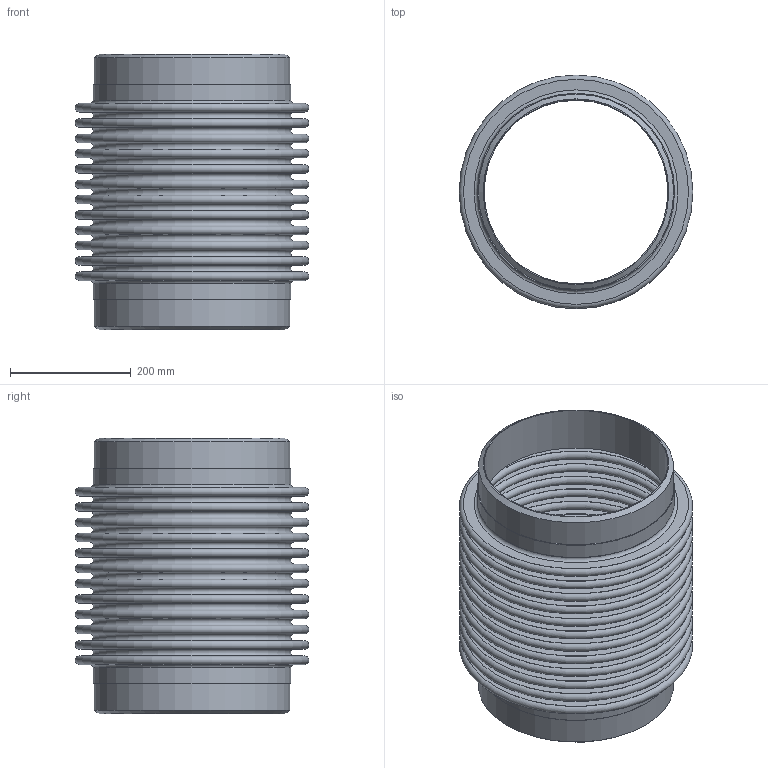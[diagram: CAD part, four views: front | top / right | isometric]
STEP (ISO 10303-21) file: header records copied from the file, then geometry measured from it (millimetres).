
FILE_DESCRIPTION(/* description */ ('EXPANSION JOINT,SINGLE, WELD ENDS,4 INCH NOMINAL'),/* implementation_level */ '2;1');
FILE_NAME(/* name */ 'ASSEMBLY US-12-12-150L.stp',/* time_stamp */ '2026-07-30T08:45:38-05:00',/* author */ ('jorgef'),/* organization */ (''),/* preprocessor_version */ 'ST-DEVELOPER v20.1',/* originating_system */ 'Autodesk Inventor 2026',/* authorisation */ '');
FILE_SCHEMA (('AUTOMOTIVE_DESIGN { 1 0 10303 214 3 1 1 }'));
Length unit declared in the file: inch
Products named in the file (3): ASSEMBLY  US-12-12-150L; STOCK BELLOW - US-12-12-150L; PIPE- US-12-12-150L
Assembly tree (3 placements, depth 2):
  ASSEMBLY  US-12-12-150L
    STOCK BELLOW - US-12-12-150L
    PIPE- US-12-12-150L  x2
Bounding box: 387.35 x 387.35 x 457.2 mm (x, y, z)
Volume: 2995459 mm3; surface area: 2453055.6 mm2
Topology: 5 solids, 5 shells, 118 faces, 180 edges, 121 vertices
Faces by surface type: plane 58, torus 50, cylinder 8, cone 2
Full cylindrical faces by diameter (mm): 304.8 x2, 323.85 x4, 326.898 x2
Entity records: 2769 total; most frequent: DIRECTION 573, CARTESIAN_POINT 405, ORIENTED_EDGE 342, AXIS2_PLACEMENT_3D 283, EDGE_CURVE 171, EDGE_LOOP 169, CIRCLE 164, VERTEX_POINT 114
